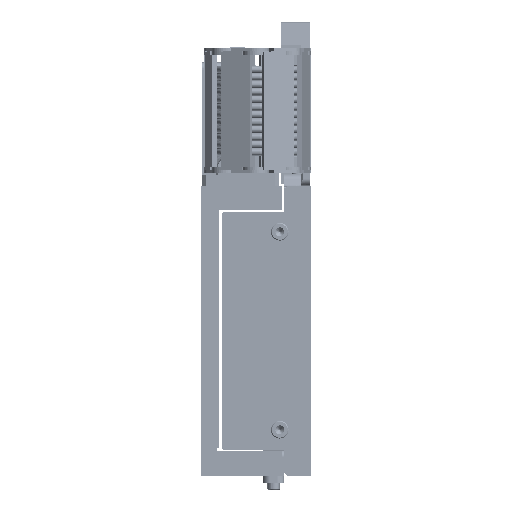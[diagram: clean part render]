
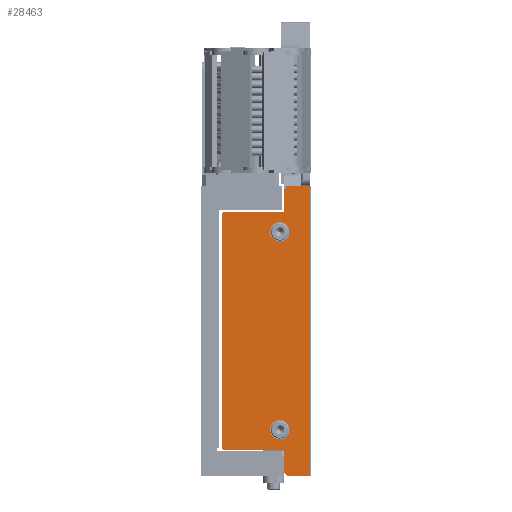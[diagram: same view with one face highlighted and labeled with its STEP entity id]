
A CAD part, left-side view. The second image highlights one B-rep face of the part: STEP entity #28463.
In plain terms, the highlighted planar face has unit normal (-1, 0, 0).
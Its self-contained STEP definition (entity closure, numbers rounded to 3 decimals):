
#884 = ORIENTED_EDGE ( 'NONE', *, *, #20628, .F. ) ;
#1233 = EDGE_CURVE ( 'NONE', #9997, #87798, #115883, .T. ) ;
#2001 = VERTEX_POINT ( 'NONE', #44772 ) ;
#2195 = EDGE_CURVE ( 'NONE', #113681, #16151, #73451, .T. ) ;
#4147 = DIRECTION ( 'NONE',  ( 1., 0., 0. ) ) ;
#4311 = DIRECTION ( 'NONE',  ( 0., 0., 1. ) ) ;
#4336 = VERTEX_POINT ( 'NONE', #57289 ) ;
#5985 = DIRECTION ( 'NONE',  ( 0., 0.707, -0.707 ) ) ;
#7789 = EDGE_CURVE ( 'NONE', #85797, #2001, #106856, .T. ) ;
#9829 = VERTEX_POINT ( 'NONE', #87881 ) ;
#9997 = VERTEX_POINT ( 'NONE', #37872 ) ;
#10074 = ORIENTED_EDGE ( 'NONE', *, *, #116760, .T. ) ;
#10098 = DIRECTION ( 'NONE',  ( 0., -0.707, -0.707 ) ) ;
#10345 = AXIS2_PLACEMENT_3D ( 'NONE', #87033, #26228, #36449 ) ;
#10770 = DIRECTION ( 'NONE',  ( 0., 0., -1. ) ) ;
#12258 = DIRECTION ( 'NONE',  ( 0., 0., 1. ) ) ;
#12316 = EDGE_CURVE ( 'NONE', #54112, #4336, #79487, .T. ) ;
#13181 = CARTESIAN_POINT ( 'NONE',  ( -515., 15., -67.5 ) ) ;
#15011 = CIRCLE ( 'NONE', #47995, 5.5 ) ;
#16151 = VERTEX_POINT ( 'NONE', #50009 ) ;
#19355 = LINE ( 'NONE', #13181, #120888 ) ;
#19971 = EDGE_CURVE ( 'NONE', #51148, #9997, #119705, .T. ) ;
#20160 = VERTEX_POINT ( 'NONE', #48760 ) ;
#20628 = EDGE_CURVE ( 'NONE', #105064, #20160, #15011, .T. ) ;
#21013 = CARTESIAN_POINT ( 'NONE',  ( -515., 0.25, -82.5 ) ) ;
#22665 = ORIENTED_EDGE ( 'NONE', *, *, #12316, .T. ) ;
#22774 = EDGE_CURVE ( 'NONE', #32598, #43814, #59744, .T. ) ;
#24302 = DIRECTION ( 'NONE',  ( 0., 1., 0. ) ) ;
#25804 = VECTOR ( 'NONE', #24302, 1000. ) ;
#26228 = DIRECTION ( 'NONE',  ( -1., 0., 0. ) ) ;
#27436 = VECTOR ( 'NONE', #122610, 1000. ) ;
#28463 = ADVANCED_FACE ( 'NONE', ( #110710, #56685, #121716 ), #56086, .F. ) ;
#31027 = EDGE_LOOP ( 'NONE', ( #884, #96549 ) ) ;
#32598 = VERTEX_POINT ( 'NONE', #42059 ) ;
#33760 = CARTESIAN_POINT ( 'NONE',  ( -515., 15., 80.55 ) ) ;
#34611 = CARTESIAN_POINT ( 'NONE',  ( -515., 15., -67.5 ) ) ;
#36449 = DIRECTION ( 'NONE',  ( 0., 0., 1. ) ) ;
#37432 = ORIENTED_EDGE ( 'NONE', *, *, #83979, .T. ) ;
#37872 = CARTESIAN_POINT ( 'NONE',  ( -515., 15., -80.55 ) ) ;
#38606 = EDGE_CURVE ( 'NONE', #98380, #54112, #87789, .T. ) ;
#38639 = CARTESIAN_POINT ( 'NONE',  ( -515., 17.5, 61.75 ) ) ;
#40134 = ORIENTED_EDGE ( 'NONE', *, *, #38606, .T. ) ;
#41366 = ORIENTED_EDGE ( 'NONE', *, *, #120531, .T. ) ;
#42059 = CARTESIAN_POINT ( 'NONE',  ( -515., 0.25, 82.5 ) ) ;
#42493 = ORIENTED_EDGE ( 'NONE', *, *, #45542, .T. ) ;
#43814 = VERTEX_POINT ( 'NONE', #127157 ) ;
#44772 = CARTESIAN_POINT ( 'NONE',  ( -515., 17.5, -50.75 ) ) ;
#44974 = CARTESIAN_POINT ( 'NONE',  ( -515., 13.05, 82.5 ) ) ;
#45542 = EDGE_CURVE ( 'NONE', #16151, #98380, #70336, .T. ) ;
#47995 = AXIS2_PLACEMENT_3D ( 'NONE', #74553, #94940, #4311 ) ;
#48066 = CARTESIAN_POINT ( 'NONE',  ( -515., 50.5, -66.5 ) ) ;
#48716 = LINE ( 'NONE', #104902, #88461 ) ;
#48760 = CARTESIAN_POINT ( 'NONE',  ( -515., 17.5, 50.75 ) ) ;
#50009 = CARTESIAN_POINT ( 'NONE',  ( -515., 15., 67.5 ) ) ;
#50524 = EDGE_CURVE ( 'NONE', #43814, #113681, #116784, .T. ) ;
#51105 = CARTESIAN_POINT ( 'NONE',  ( -515., 15., 67.5 ) ) ;
#51148 = VERTEX_POINT ( 'NONE', #34611 ) ;
#51751 = CARTESIAN_POINT ( 'NONE',  ( -515., 49.5, -67.5 ) ) ;
#53590 = CARTESIAN_POINT ( 'NONE',  ( -515., 49.5, 67.5 ) ) ;
#54112 = VERTEX_POINT ( 'NONE', #89750 ) ;
#55224 = DIRECTION ( 'NONE',  ( 0., 0., -1. ) ) ;
#56086 = PLANE ( 'NONE',  #91496 ) ;
#56685 = FACE_BOUND ( 'NONE', #31027, .T. ) ;
#57289 = CARTESIAN_POINT ( 'NONE',  ( -515., 50.5, -66.5 ) ) ;
#57311 = CARTESIAN_POINT ( 'NONE',  ( -515., 49.5, 67.5 ) ) ;
#59230 = ORIENTED_EDGE ( 'NONE', *, *, #1233, .T. ) ;
#59744 = LINE ( 'NONE', #44974, #100999 ) ;
#60173 = LINE ( 'NONE', #51751, #64871 ) ;
#64871 = VECTOR ( 'NONE', #10098, 1000. ) ;
#66661 = CARTESIAN_POINT ( 'NONE',  ( -515., 0.25, 82.5 ) ) ;
#66854 = CARTESIAN_POINT ( 'NONE',  ( -515., 15., 80.55 ) ) ;
#69414 = DIRECTION ( 'NONE',  ( 0., 0., -1. ) ) ;
#70336 = LINE ( 'NONE', #53590, #25804 ) ;
#72215 = DIRECTION ( 'NONE',  ( -1., 0., 0. ) ) ;
#73451 = LINE ( 'NONE', #51105, #76622 ) ;
#74553 = CARTESIAN_POINT ( 'NONE',  ( -515., 17.5, 56.25 ) ) ;
#76016 = ORIENTED_EDGE ( 'NONE', *, *, #19971, .T. ) ;
#76622 = VECTOR ( 'NONE', #81371, 1000. ) ;
#76893 = DIRECTION ( 'NONE',  ( 0., 0., 1. ) ) ;
#79487 = LINE ( 'NONE', #48066, #123822 ) ;
#81371 = DIRECTION ( 'NONE',  ( 0., 0., -1. ) ) ;
#83248 = CARTESIAN_POINT ( 'NONE',  ( -515., 17.5, 56.25 ) ) ;
#83979 = EDGE_CURVE ( 'NONE', #4336, #9829, #60173, .T. ) ;
#84168 = DIRECTION ( 'NONE',  ( 0., -1., 0. ) ) ;
#84209 = VECTOR ( 'NONE', #94869, 1000. ) ;
#84329 = EDGE_LOOP ( 'NONE', ( #112615, #112413 ) ) ;
#84606 = CIRCLE ( 'NONE', #117159, 5.5 ) ;
#85797 = VERTEX_POINT ( 'NONE', #102843 ) ;
#87033 = CARTESIAN_POINT ( 'NONE',  ( -515., 17.5, -56.25 ) ) ;
#87789 = LINE ( 'NONE', #124369, #27436 ) ;
#87798 = VERTEX_POINT ( 'NONE', #114375 ) ;
#87881 = CARTESIAN_POINT ( 'NONE',  ( -515., 49.5, -67.5 ) ) ;
#88461 = VECTOR ( 'NONE', #124809, 1000. ) ;
#89750 = CARTESIAN_POINT ( 'NONE',  ( -515., 50.5, 66.5 ) ) ;
#91496 = AXIS2_PLACEMENT_3D ( 'NONE', #106241, #4147, #55224 ) ;
#94869 = DIRECTION ( 'NONE',  ( 0., -0.707, -0.707 ) ) ;
#94940 = DIRECTION ( 'NONE',  ( -1., 0., 0. ) ) ;
#96047 = ORIENTED_EDGE ( 'NONE', *, *, #50524, .T. ) ;
#96118 = EDGE_CURVE ( 'NONE', #2001, #85797, #131592, .T. ) ;
#96549 = ORIENTED_EDGE ( 'NONE', *, *, #123493, .F. ) ;
#98380 = VERTEX_POINT ( 'NONE', #57311 ) ;
#100999 = VECTOR ( 'NONE', #115940, 1000. ) ;
#102843 = CARTESIAN_POINT ( 'NONE',  ( -515., 17.5, -61.75 ) ) ;
#104902 = CARTESIAN_POINT ( 'NONE',  ( -515., 0.25, -82.5 ) ) ;
#105064 = VERTEX_POINT ( 'NONE', #38639 ) ;
#106241 = CARTESIAN_POINT ( 'NONE',  ( -515., 0., 0. ) ) ;
#106856 = CIRCLE ( 'NONE', #115674, 5.5 ) ;
#110109 = EDGE_CURVE ( 'NONE', #87798, #125400, #48716, .T. ) ;
#110710 = FACE_BOUND ( 'NONE', #84329, .T. ) ;
#112147 = DIRECTION ( 'NONE',  ( 0., 0., 1. ) ) ;
#112413 = ORIENTED_EDGE ( 'NONE', *, *, #7789, .F. ) ;
#112570 = DIRECTION ( 'NONE',  ( -1., 0., 0. ) ) ;
#112615 = ORIENTED_EDGE ( 'NONE', *, *, #96118, .F. ) ;
#113244 = CARTESIAN_POINT ( 'NONE',  ( -515., 15., -80.55 ) ) ;
#113681 = VERTEX_POINT ( 'NONE', #33760 ) ;
#113868 = CARTESIAN_POINT ( 'NONE',  ( -515., 17.5, -56.25 ) ) ;
#114375 = CARTESIAN_POINT ( 'NONE',  ( -515., 13.05, -82.5 ) ) ;
#114612 = EDGE_LOOP ( 'NONE', ( #41366, #127232, #96047, #121395, #42493, #40134, #22665, #37432, #10074, #76016, #59230, #115148 ) ) ;
#115148 = ORIENTED_EDGE ( 'NONE', *, *, #110109, .T. ) ;
#115352 = VECTOR ( 'NONE', #5985, 1000. ) ;
#115674 = AXIS2_PLACEMENT_3D ( 'NONE', #113868, #72215, #12258 ) ;
#115883 = LINE ( 'NONE', #121497, #84209 ) ;
#115940 = DIRECTION ( 'NONE',  ( 0., 1., 0. ) ) ;
#116760 = EDGE_CURVE ( 'NONE', #9829, #51148, #19355, .T. ) ;
#116784 = LINE ( 'NONE', #66854, #115352 ) ;
#117159 = AXIS2_PLACEMENT_3D ( 'NONE', #83248, #112570, #112147 ) ;
#119705 = LINE ( 'NONE', #113244, #121368 ) ;
#120531 = EDGE_CURVE ( 'NONE', #125400, #32598, #127876, .T. ) ;
#120888 = VECTOR ( 'NONE', #84168, 1000. ) ;
#121368 = VECTOR ( 'NONE', #10770, 1000. ) ;
#121395 = ORIENTED_EDGE ( 'NONE', *, *, #2195, .T. ) ;
#121497 = CARTESIAN_POINT ( 'NONE',  ( -515., 13.05, -82.5 ) ) ;
#121716 = FACE_OUTER_BOUND ( 'NONE', #114612, .T. ) ;
#122610 = DIRECTION ( 'NONE',  ( 0., 0.707, -0.707 ) ) ;
#123203 = VECTOR ( 'NONE', #76893, 1000. ) ;
#123493 = EDGE_CURVE ( 'NONE', #20160, #105064, #84606, .T. ) ;
#123822 = VECTOR ( 'NONE', #69414, 1000. ) ;
#124369 = CARTESIAN_POINT ( 'NONE',  ( -515., 50.5, 66.5 ) ) ;
#124809 = DIRECTION ( 'NONE',  ( 0., -1., 0. ) ) ;
#125400 = VERTEX_POINT ( 'NONE', #21013 ) ;
#127157 = CARTESIAN_POINT ( 'NONE',  ( -515., 13.05, 82.5 ) ) ;
#127232 = ORIENTED_EDGE ( 'NONE', *, *, #22774, .T. ) ;
#127876 = LINE ( 'NONE', #66661, #123203 ) ;
#131592 = CIRCLE ( 'NONE', #10345, 5.5 ) ;
